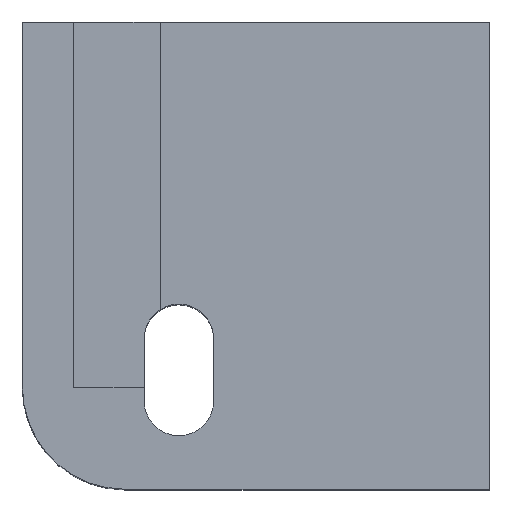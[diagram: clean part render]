
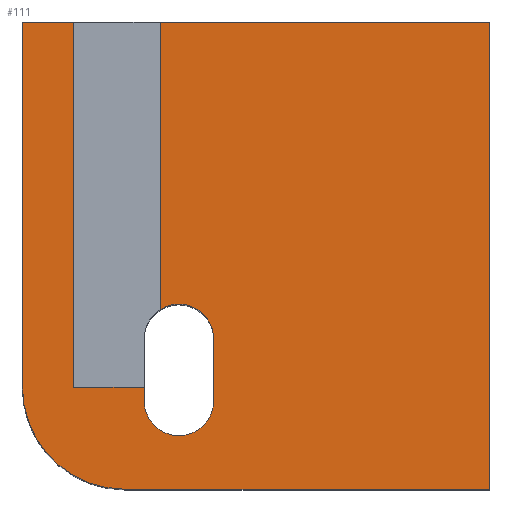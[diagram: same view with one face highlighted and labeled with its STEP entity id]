
A CAD part, top view. The second image highlights one B-rep face of the part: STEP entity #111.
In plain terms, the highlighted planar face has unit normal (0, 0, 1).
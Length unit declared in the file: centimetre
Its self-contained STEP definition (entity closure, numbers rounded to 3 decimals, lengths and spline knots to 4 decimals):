
#19 = LINE ( 'NONE', #1218, #849 ) ;
#48 = DIRECTION ( 'NONE',  ( 0., 0., 1. ) ) ;
#52 = CARTESIAN_POINT ( 'NONE',  ( 0., 1000., 1000. ) ) ;
#66 = CARTESIAN_POINT ( 'NONE',  ( 1000., 0., 1000. ) ) ;
#84 = ORIENTED_EDGE ( 'NONE', *, *, #1222, .T. ) ;
#86 = AXIS2_PLACEMENT_3D ( 'NONE', #1000, #790, #400 ) ;
#109 = ORIENTED_EDGE ( 'NONE', *, *, #1022, .T. ) ;
#111 = ADVANCED_FACE ( 'NONE', ( #696 ), #472, .T. ) ;
#134 = CIRCLE ( 'NONE', #1021, 74.3906 ) ;
#141 = LINE ( 'NONE', #851, #444 ) ;
#209 = CARTESIAN_POINT ( 'NONE',  ( 218.9921, 0., 1000. ) ) ;
#218 = LINE ( 'NONE', #904, #1289 ) ;
#219 = EDGE_CURVE ( 'NONE', #350, #447, #548, .T. ) ;
#226 = ORIENTED_EDGE ( 'NONE', *, *, #1033, .T. ) ;
#247 = EDGE_CURVE ( 'NONE', #961, #273, #218, .T. ) ;
#258 = VECTOR ( 'NONE', #1054, 100. ) ;
#273 = VERTEX_POINT ( 'NONE', #314 ) ;
#276 = EDGE_CURVE ( 'NONE', #307, #547, #19, .T. ) ;
#307 = VERTEX_POINT ( 'NONE', #686 ) ;
#314 = CARTESIAN_POINT ( 'NONE',  ( 260.5791, 218.3269, 1000. ) ) ;
#323 = DIRECTION ( 'NONE',  ( 0., 0., -1. ) ) ;
#328 = EDGE_CURVE ( 'NONE', #726, #1030, #404, .T. ) ;
#341 = ORIENTED_EDGE ( 'NONE', *, *, #731, .T. ) ;
#350 = VERTEX_POINT ( 'NONE', #607 ) ;
#353 = CARTESIAN_POINT ( 'NONE',  ( 0., 1000., 1000. ) ) ;
#366 = ORIENTED_EDGE ( 'NONE', *, *, #219, .T. ) ;
#375 = VERTEX_POINT ( 'NONE', #627 ) ;
#400 = DIRECTION ( 'NONE',  ( -1., 0., 0. ) ) ;
#404 = CIRCLE ( 'NONE', #86, 74.3906 ) ;
#418 = EDGE_CURVE ( 'NONE', #629, #273, #421, .T. ) ;
#421 = LINE ( 'NONE', #434, #1176 ) ;
#434 = CARTESIAN_POINT ( 'NONE',  ( 260.5791, 188.9942, 1000. ) ) ;
#440 = AXIS2_PLACEMENT_3D ( 'NONE', #860, #48, #789 ) ;
#444 = VECTOR ( 'NONE', #933, 100. ) ;
#447 = VERTEX_POINT ( 'NONE', #848 ) ;
#462 = DIRECTION ( 'NONE',  ( 0., 0., 1. ) ) ;
#472 = PLANE ( 'NONE',  #440 ) ;
#483 = EDGE_LOOP ( 'NONE', ( #573, #515, #497, #963, #638, #814, #341, #897, #366, #109, #84, #226, #601 ) ) ;
#484 = CIRCLE ( 'NONE', #1232, 218.9921 ) ;
#497 = ORIENTED_EDGE ( 'NONE', *, *, #523, .T. ) ;
#515 = ORIENTED_EDGE ( 'NONE', *, *, #328, .T. ) ;
#522 = DIRECTION ( 'NONE',  ( -1., 0., 0. ) ) ;
#523 = EDGE_CURVE ( 'NONE', #1030, #846, #657, .T. ) ;
#527 = VECTOR ( 'NONE', #1159, 100. ) ;
#547 = VERTEX_POINT ( 'NONE', #878 ) ;
#548 = LINE ( 'NONE', #353, #1263 ) ;
#558 = CARTESIAN_POINT ( 'NONE',  ( 260.5791, 188.9942, 1000. ) ) ;
#566 = EDGE_CURVE ( 'NONE', #375, #350, #758, .T. ) ;
#573 = ORIENTED_EDGE ( 'NONE', *, *, #833, .F. ) ;
#601 = ORIENTED_EDGE ( 'NONE', *, *, #276, .T. ) ;
#607 = CARTESIAN_POINT ( 'NONE',  ( 0., 1000., 1000. ) ) ;
#627 = CARTESIAN_POINT ( 'NONE',  ( 110.0269, 1000., 1000. ) ) ;
#629 = VERTEX_POINT ( 'NONE', #558 ) ;
#638 = ORIENTED_EDGE ( 'NONE', *, *, #418, .T. ) ;
#650 = DIRECTION ( 'NONE',  ( 0., -1., 0. ) ) ;
#657 = LINE ( 'NONE', #872, #972 ) ;
#666 = CARTESIAN_POINT ( 'NONE',  ( 409.3604, 321.7926, 1000. ) ) ;
#686 = CARTESIAN_POINT ( 'NONE',  ( 1000., 1000., 1000. ) ) ;
#696 = FACE_OUTER_BOUND ( 'NONE', #483, .T. ) ;
#726 = VERTEX_POINT ( 'NONE', #1100 ) ;
#731 = EDGE_CURVE ( 'NONE', #961, #375, #1091, .T. ) ;
#758 = LINE ( 'NONE', #52, #527 ) ;
#767 = CARTESIAN_POINT ( 'NONE',  ( 218.9921, 218.9921, 1000. ) ) ;
#789 = DIRECTION ( 'NONE',  ( 1., 0., 0. ) ) ;
#790 = DIRECTION ( 'NONE',  ( 0., 0., -1. ) ) ;
#791 = EDGE_CURVE ( 'NONE', #846, #629, #134, .T. ) ;
#804 = VECTOR ( 'NONE', #1010, 100. ) ;
#814 = ORIENTED_EDGE ( 'NONE', *, *, #247, .F. ) ;
#833 = EDGE_CURVE ( 'NONE', #726, #547, #141, .T. ) ;
#846 = VERTEX_POINT ( 'NONE', #1247 ) ;
#848 = CARTESIAN_POINT ( 'NONE',  ( 0., 218.9921, 1000. ) ) ;
#849 = VECTOR ( 'NONE', #1104, 100. ) ;
#851 = CARTESIAN_POINT ( 'NONE',  ( 294.6911, 218.3269, 1000. ) ) ;
#860 = CARTESIAN_POINT ( 'NONE',  ( 0., 0., 1000. ) ) ;
#872 = CARTESIAN_POINT ( 'NONE',  ( 409.3604, 321.7926, 1000. ) ) ;
#878 = CARTESIAN_POINT ( 'NONE',  ( 294.6911, 1000., 1000. ) ) ;
#897 = ORIENTED_EDGE ( 'NONE', *, *, #566, .T. ) ;
#904 = CARTESIAN_POINT ( 'NONE',  ( 110.0269, 218.3269, 1000. ) ) ;
#933 = DIRECTION ( 'NONE',  ( 0., 1., 0. ) ) ;
#961 = VERTEX_POINT ( 'NONE', #1267 ) ;
#963 = ORIENTED_EDGE ( 'NONE', *, *, #791, .T. ) ;
#965 = LINE ( 'NONE', #1080, #258 ) ;
#972 = VECTOR ( 'NONE', #650, 100. ) ;
#1000 = CARTESIAN_POINT ( 'NONE',  ( 334.9697, 321.7926, 1000. ) ) ;
#1010 = DIRECTION ( 'NONE',  ( 1., 0., 0. ) ) ;
#1021 = AXIS2_PLACEMENT_3D ( 'NONE', #1042, #323, #522 ) ;
#1022 = EDGE_CURVE ( 'NONE', #447, #1174, #484, .T. ) ;
#1025 = DIRECTION ( 'NONE',  ( 1., 0., 0. ) ) ;
#1030 = VERTEX_POINT ( 'NONE', #666 ) ;
#1033 = EDGE_CURVE ( 'NONE', #1314, #307, #965, .T. ) ;
#1042 = CARTESIAN_POINT ( 'NONE',  ( 334.9697, 188.9942, 1000. ) ) ;
#1054 = DIRECTION ( 'NONE',  ( 0., 1., 0. ) ) ;
#1080 = CARTESIAN_POINT ( 'NONE',  ( 1000., 1000., 1000. ) ) ;
#1091 = LINE ( 'NONE', #1295, #1265 ) ;
#1100 = CARTESIAN_POINT ( 'NONE',  ( 294.6911, 384.3354, 1000. ) ) ;
#1104 = DIRECTION ( 'NONE',  ( -1., 0., 0. ) ) ;
#1108 = CARTESIAN_POINT ( 'NONE',  ( 0., 0., 1000. ) ) ;
#1157 = DIRECTION ( 'NONE',  ( 1., 0., 0. ) ) ;
#1159 = DIRECTION ( 'NONE',  ( -1., 0., 0. ) ) ;
#1174 = VERTEX_POINT ( 'NONE', #209 ) ;
#1176 = VECTOR ( 'NONE', #1235, 100. ) ;
#1197 = DIRECTION ( 'NONE',  ( 0., 1., 0. ) ) ;
#1218 = CARTESIAN_POINT ( 'NONE',  ( 0., 1000., 1000. ) ) ;
#1221 = LINE ( 'NONE', #1108, #804 ) ;
#1222 = EDGE_CURVE ( 'NONE', #1174, #1314, #1221, .T. ) ;
#1232 = AXIS2_PLACEMENT_3D ( 'NONE', #767, #462, #1157 ) ;
#1235 = DIRECTION ( 'NONE',  ( 0., 1., 0. ) ) ;
#1247 = CARTESIAN_POINT ( 'NONE',  ( 409.3604, 188.9942, 1000. ) ) ;
#1263 = VECTOR ( 'NONE', #1285, 100. ) ;
#1265 = VECTOR ( 'NONE', #1197, 100. ) ;
#1267 = CARTESIAN_POINT ( 'NONE',  ( 110.0269, 218.3269, 1000. ) ) ;
#1285 = DIRECTION ( 'NONE',  ( 0., -1., 0. ) ) ;
#1289 = VECTOR ( 'NONE', #1025, 100. ) ;
#1295 = CARTESIAN_POINT ( 'NONE',  ( 110.0269, 218.3269, 1000. ) ) ;
#1314 = VERTEX_POINT ( 'NONE', #66 ) ;
